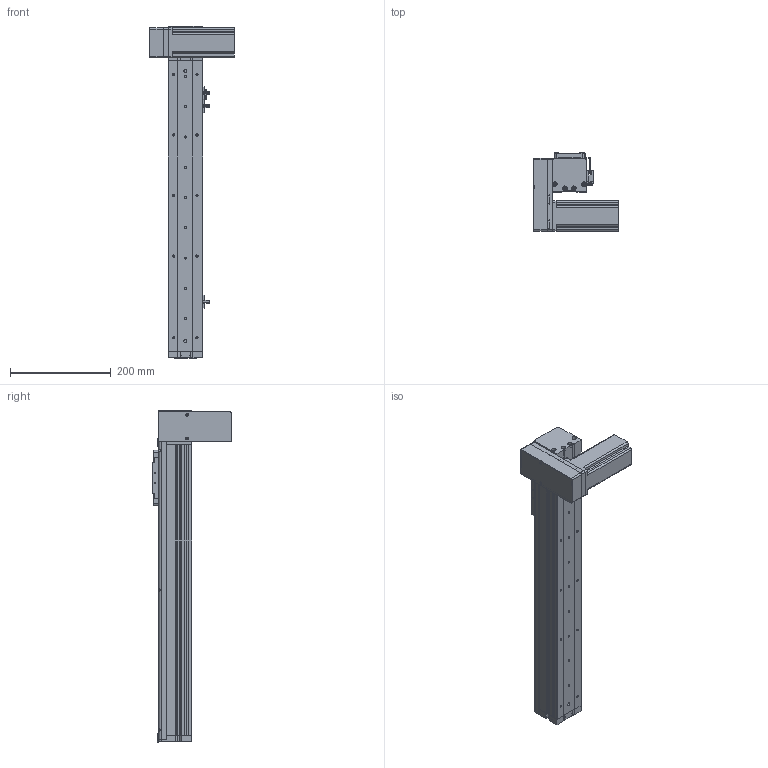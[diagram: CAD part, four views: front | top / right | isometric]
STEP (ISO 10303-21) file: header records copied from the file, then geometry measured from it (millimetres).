
FILE_DESCRIPTION (( 'STEP AP214' ), '1' );
FILE_NAME ('KSD68BS-S400-MRD-CR.STEP', '2019-08-28T01:54:40', ( '微软用户' ), ( '微软中国' ), 'SwSTEP 2.0', 'SolidWorks 2014', '' );
FILE_SCHEMA (( 'AUTOMOTIVE_DESIGN' ));
Length unit declared in the file: millimetre
Products named in the file (14): KSD68BS 400行程侧板全封闭; 68宽单导轨全封闭同步带端板; 68单导轨全封闭同步带电机座右; KSD68BS 400行程盖板全封闭; 68单导轨全封闭同步带安装板; 悵誘欶奻狟殏; 68宽马达安装板连板上折同步带; 感应片68宽全封闭; U倰嫖萇EEㄜSX672; 台达ECMA－C20604AS伺服电机（400W); KSD68BS 400行程底板全封闭; 68遵裔啣揤啣1; KSD68BS-S400-MRD-CR; 68宽单导轨全封闭丝杆传动安装板1防护罩
Assembly tree (17 placements, depth 2):
  KSD68BS-S400-MRD-CR
    KSD68BS 400行程底板全封闭
    台达ECMA－C20604AS伺服电机（400W)
    U倰嫖萇EEㄜSX672  x3
    感应片68宽全封闭
    68宽马达安装板连板上折同步带
    悵誘欶奻狟殏
    68单导轨全封闭同步带安装板
    68单导轨全封闭同步带电机座右
    68宽单导轨全封闭同步带端板
    KSD68BS 400行程侧板全封闭  x2
    68宽单导轨全封闭丝杆传动安装板1防护罩
    68遵裔啣揤啣1  x2
    KSD68BS 400行程盖板全封闭
Bounding box: 167.2 x 155.5 x 658.1 mm (x, y, z)
Volume: 1729580.7 mm3; surface area: 590116.4 mm2
Topology: 18 solids, 18 shells, 1374 faces, 3863 edges, 2485 vertices
Faces by surface type: plane 623, cylinder 619, cone 132
Entity records: 42434 total; most frequent: CARTESIAN_POINT 7079, DIRECTION 6435, ORIENTED_EDGE 6162, EDGE_CURVE 3081, AXIS2_PLACEMENT_3D 2287, VERTEX_POINT 2023, LINE 1861, VECTOR 1861
